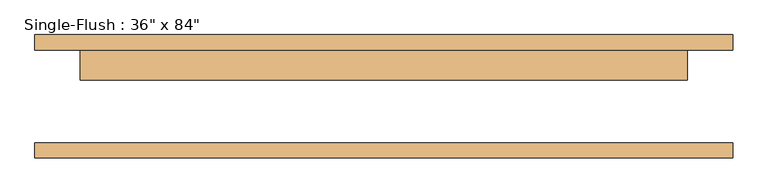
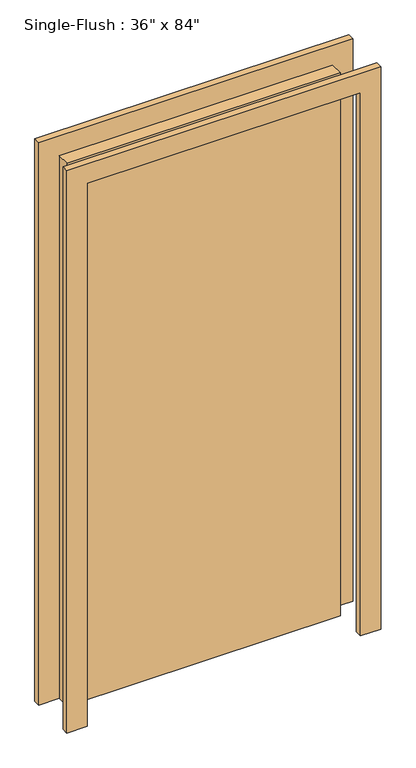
"""IFC4 building model written with IfcOpenShell, lengths in millimetres: door geometry."""

from ifc_helpers import new_model, si_unit, frame, origin, origin_with_axes, place, context, project, spatial, polyline, outline, extrude, source, transform, mapped, element, save


def door_5d800252(model_context):
    return source(origin(), model_context, "Body", "SweptSolid", [
        extrude(outline(polyline([(2209.8, -584.2), (0.0, -584.2), (0.0, -508.0), (2133.6, -508.0), (2133.6, 508.0), (0.0, 508.0), (0.0, 584.2), (2209.8, 584.2), (2209.8, -584.2)])), frame((0.0, 77.7875, 0.0), z_axis=(0.0, 1.0, 0.0), x_axis=(0.0, 0.0, 1.0)), (0.0, 0.0, 1.0), 25.4),
        extrude(outline(polyline([(2209.8, 584.2), (2209.8, -584.2), (0.0, -584.2), (0.0, -508.0), (2133.6, -508.0), (2133.6, 508.0), (0.0, 508.0), (0.0, 584.2), (2209.8, 584.2)])), frame((0.0, -103.1875, 0.0), z_axis=(0.0, 1.0, 0.0), x_axis=(0.0, 0.0, 1.0)), (0.0, 0.0, 1.0), 25.4),
        extrude(outline(polyline([(508.0, 26.9875), (-508.0, 26.9875), (-508.0, 77.7875), (508.0, 77.7875), (508.0, 26.9875)])), origin_with_axes(), (0.0, 0.0, 1.0), 2133.6),
    ])


if __name__ == "__main__":
    model = new_model("IFC4")
    model_context = context("Model", 3, world=origin())
    ifc_project = project(units=[si_unit("LENGTHUNIT", "METRE", prefix="MILLI")], contexts=[model_context])
    site = spatial("IfcSite", under=ifc_project)
    building = spatial("IfcBuilding", under=site)
    placement = place(None, origin())
    door_shape = door_5d800252(model_context)
    element("IfcDoor", 1, ObjectType="Single-Flush : 36\" x 84\"", at=placement, inside=building, context=model_context, shape_type="MappedRepresentation", body=[
        mapped(door_shape, transform((0.0, 0.0, 0.0), x_axis=(1.0, 0.0, 0.0), y_axis=(0.0, 1.0, 0.0), z_axis=(0.0, 0.0, 1.0))),
    ])
    save(model, "model.ifc")
